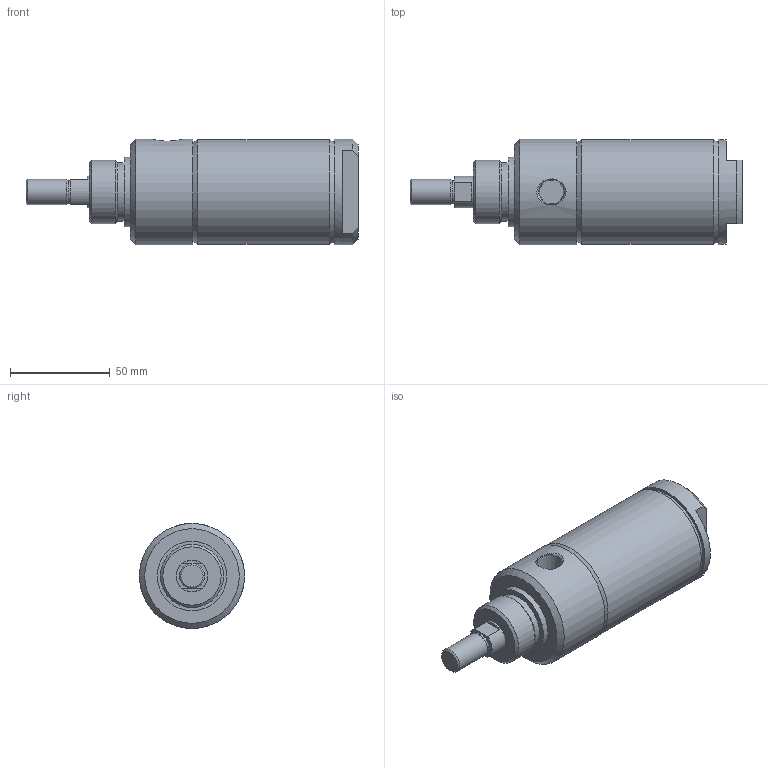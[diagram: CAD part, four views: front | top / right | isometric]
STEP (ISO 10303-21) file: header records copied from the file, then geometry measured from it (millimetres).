
FILE_DESCRIPTION( ( 'STEP AP214' ), '1' );
FILE_NAME( 'p:/temp/worker_526/temp/exporttempdir_2680_107_14OT5/format_0/2000D01-01A-03.stp', '2020-05-07T19:05:57', ( 'License CC BY-ND 4.0' ), ( 'CADENAS' ), ' ', 'PARTsolutions', ' ' );
FILE_SCHEMA( ( 'AUTOMOTIVE_DESIGN { 1 0 10303 214 1 1 1 1 }' ) );
Length unit declared in the file: inch
Products named in the file (3): 2000D01-01A-03; _2000D01-01A-0300A00A0b; _2000D01-01A-0300A00A0r
Assembly tree (2 placements, depth 2):
  2000D01-01A-03
    _2000D01-01A-0300A00A0b
    _2000D01-01A-0300A00A0r
Bounding box: 166.7 x 52.78 x 52.78 mm (x, y, z)
Volume: 213107.4 mm3; surface area: 59256 mm2
Topology: 2 solids, 2 shells, 48 faces, 92 edges, 58 vertices
Faces by surface type: plane 22, cone 13, cylinder 13
Full cylindrical faces by diameter (mm): 11.189 x1, 12.7 x1, 15.875 x3, 29.23 x1, 31.75 x1, 34.925 x1, 50.8 x2, 52.578 x1, 52.781 x2
Entity records: 1605 total; most frequent: CARTESIAN_POINT 271, DIRECTION 206, ORIENTED_EDGE 130, AXIS2_PLACEMENT_3D 95, EDGE_LOOP 84, EDGE_CURVE 65, FACE_OUTER_BOUND 61, VERTEX_POINT 55
